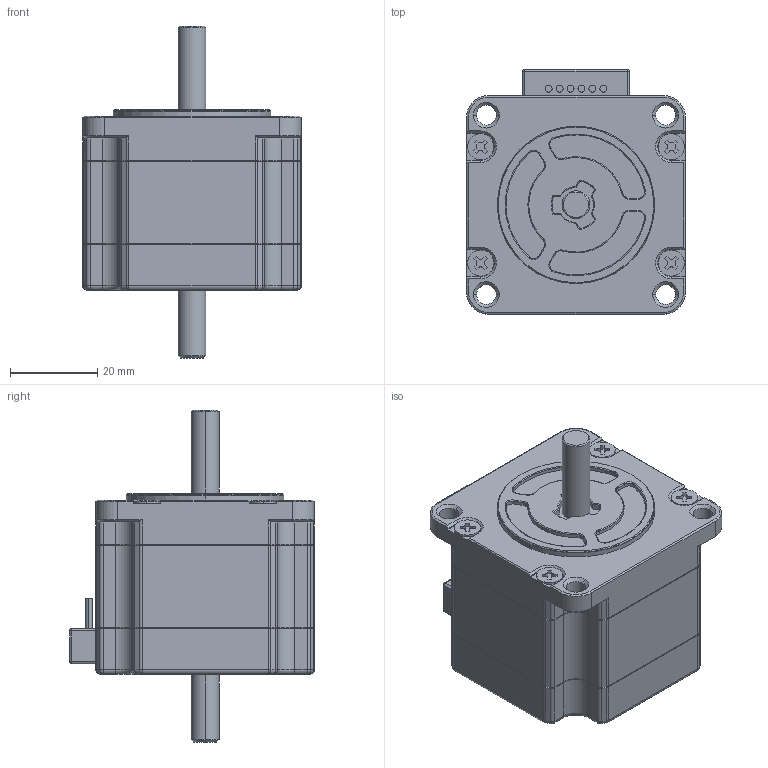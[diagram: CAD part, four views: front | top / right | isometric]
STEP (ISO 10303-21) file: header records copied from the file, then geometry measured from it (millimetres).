
FILE_DESCRIPTION (( 'STEP AP203' ), '1' );
FILE_NAME ('103H6701-0410.STEP', '2013-12-25T10:20:48', ( ' ' ), ( '' ), 'SwSTEP 2.0', 'SolidWorks 2012', '' );
FILE_SCHEMA (( 'CONFIG_CONTROL_DESIGN' ));
Length unit declared in the file: millimetre
Products named in the file (1): 103H6701-0410
Bounding box: 50 x 56 x 75.9 mm (x, y, z)
Volume: 92317.1 mm3; surface area: 14312.2 mm2
Topology: 1 solids, 1 shells, 611 faces, 1503 edges, 913 vertices
Faces by surface type: plane 221, cylinder 209, cone 113, torus 36, sphere 20, bspline 12
Entity records: 18322 total; most frequent: CARTESIAN_POINT 3655, DIRECTION 3212, ORIENTED_EDGE 2982, EDGE_CURVE 1491, AXIS2_PLACEMENT_3D 1209, VERTEX_POINT 913, LINE 794, VECTOR 794
